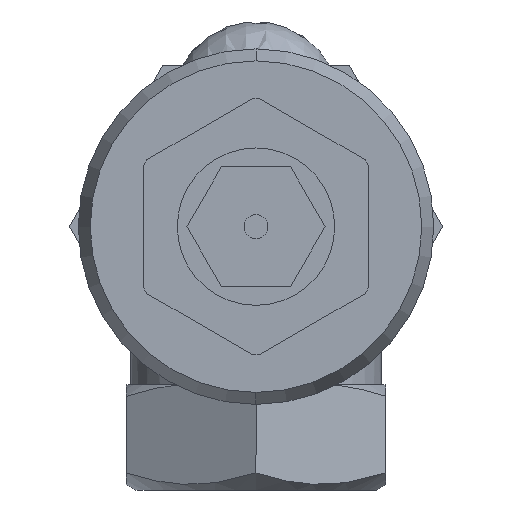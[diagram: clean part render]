
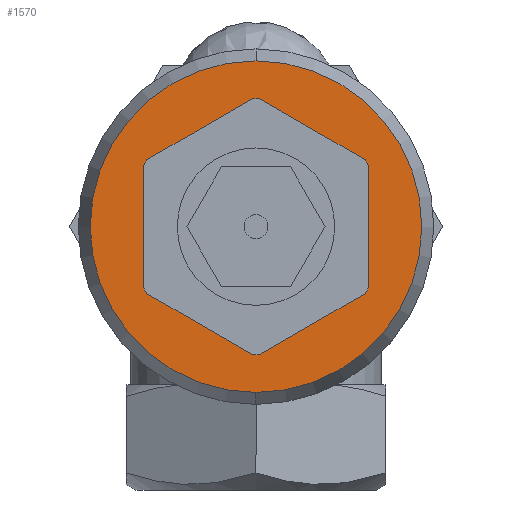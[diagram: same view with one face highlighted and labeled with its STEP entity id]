
A CAD part, front view. The second image highlights one B-rep face of the part: STEP entity #1570.
In plain terms, the highlighted planar face has unit normal (0, -1, 0).
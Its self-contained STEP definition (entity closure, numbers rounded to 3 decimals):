
#1093=CARTESIAN_POINT('',(0.,-34.5,27.85));
#1094=VERTEX_POINT('',#1093);
#1102=CARTESIAN_POINT('',(0.,-34.5,0.15));
#1103=VERTEX_POINT('',#1102);
#1110=CARTESIAN_POINT('',(0.0,-34.5,14.));
#1111=DIRECTION('',(0.0,-1.0,0.0));
#1112=DIRECTION('',(0.0,0.0,1.0));
#1113=AXIS2_PLACEMENT_3D('',#1110,#1111,#1112);
#1114=CIRCLE('',#1113,13.85);
#1115=EDGE_CURVE('',#1094,#1103,#1114,.T.);
#1555=CARTESIAN_POINT('',(0.0,-34.5,20.925));
#1556=DIRECTION('',(0.0,-1.0,0.0));
#1557=DIRECTION('',(-1.0,0.0,0.0));
#1558=AXIS2_PLACEMENT_3D('',#1555,#1556,#1557);
#1559=PLANE('',#1558);
#1560=ORIENTED_EDGE('',*,*,#1115,.T.);
#1561=CARTESIAN_POINT('',(0.0,-34.5,14.));
#1562=DIRECTION('',(0.0,-1.0,0.0));
#1563=DIRECTION('',(0.0,0.0,1.0));
#1564=AXIS2_PLACEMENT_3D('',#1561,#1562,#1563);
#1565=CIRCLE('',#1564,13.85);
#1566=EDGE_CURVE('',#1103,#1094,#1565,.T.);
#1567=ORIENTED_EDGE('',*,*,#1566,.T.);
#1568=EDGE_LOOP('',(#1560,#1567));
#1569=FACE_OUTER_BOUND('',#1568,.T.);
#1570=ADVANCED_FACE('',(#1569),#1559,.T.);
